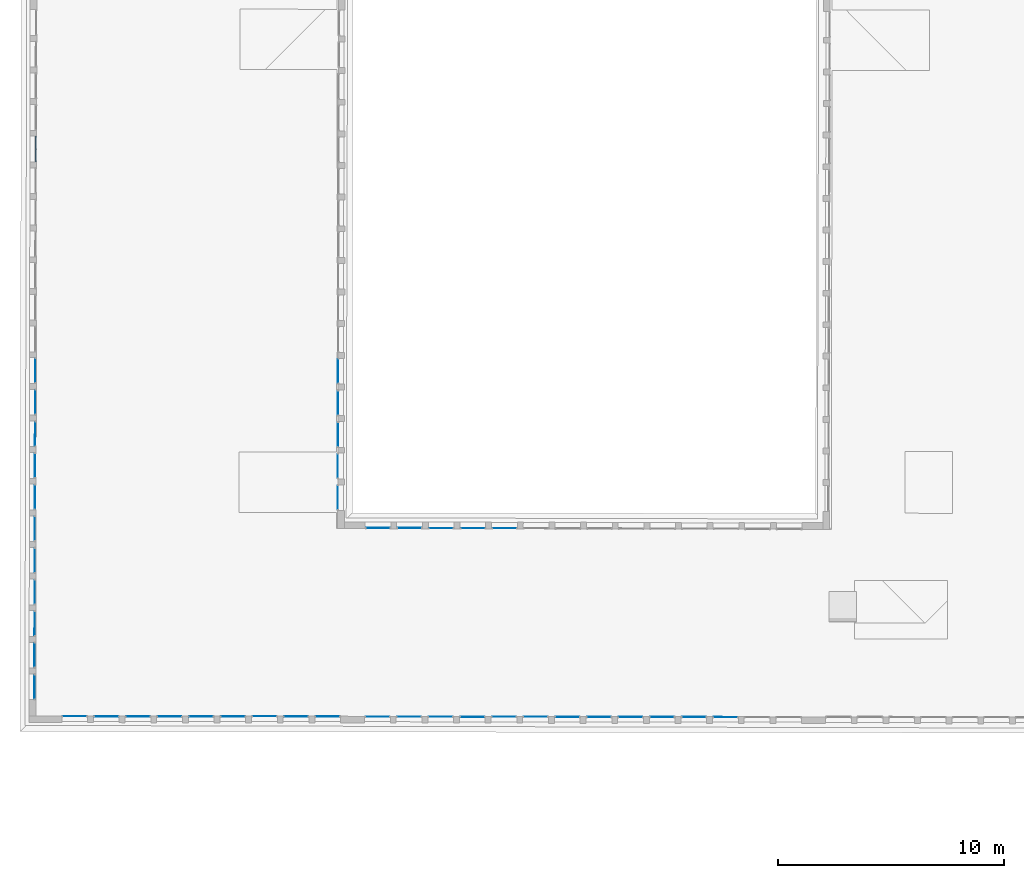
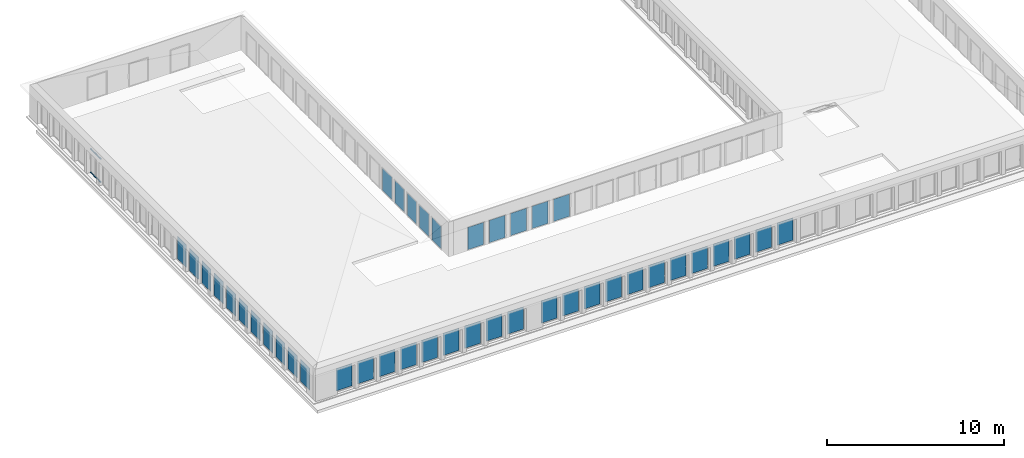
# One storey, part 16 of 26: 42 plates, 4 members, 43 elements without a shape of their own.
"""IFC2X3 building model written with IfcOpenShell, lengths in metres."""

from ifc_helpers import new_model, entity, si_unit, converted_unit, derived_unit, direction, frame, frame_2d, origin, origin_2d_with_axis, place, context, subcontext, project, spatial, rectangle, extrude, source, transform, mapped, material, layer, layer_set, type_object, type_shapes, element, aggregate, save


model = new_model("IFC2X3")

# Units and contexts
model_context = context("Model", 3, precision=1e-05, world=origin(), true_north=direction((6.123233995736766e-17, 1.0)))
body_context = subcontext(model_context, "Body", "Model", "MODEL_VIEW")
ifc_project = project(units=[si_unit("LENGTHUNIT", "METRE"), si_unit("AREAUNIT", "SQUARE_METRE"), converted_unit("PLANEANGLEUNIT", "DEGREE", entity("IfcPlaneAngleMeasure", 0.017453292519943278), si_unit("PLANEANGLEUNIT", "RADIAN"), dimensions=[0, 0, 0, 0, 0, 0, 0]), derived_unit("THERMALTRANSMITTANCEUNIT", [(si_unit("MASSUNIT", "GRAM", prefix="KILO"), 1), (si_unit("THERMODYNAMICTEMPERATUREUNIT", "KELVIN"), -1), (si_unit("TIMEUNIT", "SECOND"), -3)])], contexts=[model_context])

# Site, building, storey
site_placement = place(None, frame((1253.6752467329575, 2072.143113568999, 91.49999999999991), z_axis=(0.0, 0.0, 1.0), x_axis=(0.7237211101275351, 0.6900925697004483, 0.0)))
site = spatial("IfcSite", under=ifc_project, at=site_placement, Name="Surface", CompositionType="ELEMENT")
building_placement = place(site_placement, origin())
building = spatial("IfcBuilding", under=site, at=building_placement, CompositionType="ELEMENT")
storey_placement = place(building_placement, frame((0.0, 0.0, 7.0)))
storey = spatial("IfcBuildingStorey", under=building, at=storey_placement, Name="2-R+2", CompositionType="ELEMENT", Elevation=6.999999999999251)

# Curtain wall, members
curtain_wall_type = type_object("IfcCurtainWallType", Name="Mur-rideau:Menuiserie Ext 1F+1OB VERTIC", PredefinedType="NOTDEFINED")
curtain_wall_1_placement = place(storey_placement, frame((0.0, 0.0, -7.0)))
curtain_wall_1 = element("IfcCurtainWall", 1, at=curtain_wall_1_placement, inside=storey, type_object=curtain_wall_type, Name="Mur-rideau:Menuiserie Ext 1F+1OB VERTIC", ObjectType="Mur-rideau:Menuiserie Ext 1F+1OB VERTIC")
ifc_material_1 = material(Name="OMD_Aluminium Men Ext")
member_type_1 = type_object("IfcMemberType", Name="Meneau rectangulaire:50x50", PredefinedType="MULLION", material=ifc_material_1)
shared_shape_1 = source(origin(), body_context, "Body", "SweptSolid", [
    extrude(rectangle(XDim=0.05, YDim=0.05, at=origin_2d_with_axis()), frame((-0.025, 0.0, -0.5699999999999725), z_axis=(0.0, 0.0, 1.0), x_axis=(-1.0, 0.0, 0.0)), (0.0, 0.0, 1.0), 0.5699999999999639),
])
type_shapes(member_type_1, [shared_shape_1])
member_1_placement = place(curtain_wall_1_placement, frame((161.93739714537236, 22.84134611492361, 9.55), z_axis=(0.6911544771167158, 0.7227070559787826, 0.0), x_axis=(0.0, 0.0, 1.0)))
member_1 = element("IfcMember", 2, at=member_1_placement, type_object=member_type_1, material=ifc_material_1, Name="Meneau rectangulaire:50x50", ObjectType="Meneau rectangulaire:50x50", context=body_context, shape_type="MappedRepresentation", body=[
    mapped(shared_shape_1, transform((0.0, 0.0, 0.0), scale=1.0)),
])
member_type_2 = type_object("IfcMemberType", Name="Meneau rectangulaire:50x50", PredefinedType="MULLION", material=ifc_material_1)
shared_shape_2 = source(origin(), body_context, "Body", "SweptSolid", [
    extrude(rectangle(XDim=0.05, YDim=0.05, at=origin_2d_with_axis()), frame((-0.025, 0.0, -0.5700000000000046), z_axis=(0.0, 0.0, 1.0), x_axis=(-1.0, 0.0, 0.0)), (0.0, 0.0, 1.0), 0.5700000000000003),
])
type_shapes(member_type_2, [shared_shape_2])
member_2_placement = place(curtain_wall_1_placement, frame((161.1494810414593, 22.01746007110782, 7.9), z_axis=(-0.6911544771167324, -0.7227070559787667, 0.0), x_axis=(0.0, 0.0, -1.0)))
member_2 = element("IfcMember", 3, at=member_2_placement, type_object=member_type_2, material=ifc_material_1, Name="Meneau rectangulaire:50x50", ObjectType="Meneau rectangulaire:50x50", context=body_context, shape_type="MappedRepresentation", body=[
    mapped(shared_shape_2, transform((0.0, 0.0, 0.0), scale=1.0)),
])
member_type_3 = type_object("IfcMemberType", Name="Meneau rectangulaire:50x50", PredefinedType="MULLION", material=ifc_material_1)
shared_shape_3 = source(origin(), body_context, "Body", "SweptSolid", [
    extrude(rectangle(XDim=0.05, YDim=0.049999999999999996, at=origin_2d_with_axis()), frame((-0.025, 0.0, -0.5700000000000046), z_axis=(0.0, 0.0, 1.0), x_axis=(-1.0, 0.0, 0.0)), (0.0, 0.0, 1.0), 0.5700000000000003),
])
type_shapes(member_type_3, [shared_shape_3])
member_3_placement = place(curtain_wall_1_placement, frame((161.54343909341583, 22.429403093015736, 9.55), z_axis=(0.6911544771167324, 0.7227070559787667, 0.0), x_axis=(0.0, 0.0, 1.0)))
member_3 = element("IfcMember", 4, at=member_3_placement, type_object=member_type_3, material=ifc_material_1, Name="Meneau rectangulaire:50x50", ObjectType="Meneau rectangulaire:50x50", context=body_context, shape_type="MappedRepresentation", body=[
    mapped(shared_shape_3, transform((0.0, 0.0, 0.0), scale=1.0)),
])
member_type_4 = type_object("IfcMemberType", Name="Meneau rectangulaire:50x50", PredefinedType="MULLION", material=ifc_material_1)
shared_shape_4 = source(origin(), body_context, "Body", "SweptSolid", [
    extrude(rectangle(XDim=0.05, YDim=0.05000000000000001, at=origin_2d_with_axis()), frame((-0.025, 0.0, -0.5699999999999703), z_axis=(0.0, 0.0, 1.0), x_axis=(-1.0, 0.0, 0.0)), (0.0, 0.0, 1.0), 0.5699999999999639),
])
type_shapes(member_type_4, [shared_shape_4])
member_4_placement = place(curtain_wall_1_placement, frame((161.54343909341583, 22.429403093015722, 7.9), z_axis=(-0.6911544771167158, -0.7227070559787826, 0.0), x_axis=(0.0, 0.0, -1.0)))
member_4 = element("IfcMember", 5, at=member_4_placement, type_object=member_type_4, material=ifc_material_1, Name="Meneau rectangulaire:50x50", ObjectType="Meneau rectangulaire:50x50", context=body_context, shape_type="MappedRepresentation", body=[
    mapped(shared_shape_4, transform((0.0, 0.0, 0.0), scale=1.0)),
])
aggregate(curtain_wall_1, [member_1, member_2, member_3, member_4])

# Curtain wall, plate
curtain_wall_2_placement = place(storey_placement, frame((0.0, 0.0, -7.0)))
curtain_wall_2 = element("IfcCurtainWall", 6, at=curtain_wall_2_placement, inside=storey, type_object=curtain_wall_type, Name="Mur-rideau:Menuiserie Ext 1F+1OB VERTIC", ObjectType="Mur-rideau:Menuiserie Ext 1F+1OB VERTIC")
ifc_material_2 = material(Name="Verre")
ifc_layer = layer(ifc_material_2, 0.01)
ifc_layer_set = layer_set([ifc_layer], Name="Panneau système:Vitré")
plate_type = type_object("IfcPlateType", Name="Panneau système:Vitré", PredefinedType="CURTAIN_PANEL", material=ifc_layer_set)
shared_shape_5 = source(origin(), body_context, "Body", "SweptSolid", [
    extrude(rectangle(XDim=0.01, YDim=1.0399999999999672, at=frame_2d((0.0, -8.881784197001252e-16), x_axis=(1.0, 0.0))), frame((0.0, 0.0, 0.0), z_axis=(0.0, 0.0, 1.0), x_axis=(0.0, 1.0, 0.0)), (0.0, 0.0, 1.0), 1.5499999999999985),
])
type_shapes(plate_type, [shared_shape_5])
plate_1_placement = place(curtain_wall_2_placement, frame((154.76208069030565, 15.354576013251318, 7.950000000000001), z_axis=(0.0, 0.0, 1.0), x_axis=(0.6911544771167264, 0.7227070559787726, 0.0)))
plate_1 = element("IfcPlate", 7, at=plate_1_placement, type_object=plate_type, material=ifc_material_2, Name="Panneau système:Vitré", ObjectType="Panneau système:Vitré", context=body_context, shape_type="MappedRepresentation", body=[
    mapped(shared_shape_5, transform((0.0, 0.0, 0.0), scale=1.0)),
])
aggregate(curtain_wall_2, [plate_1])

curtain_wall_3_placement = place(storey_placement, frame((0.0, 0.0, -7.0)))
curtain_wall_3 = element("IfcCurtainWall", 8, at=curtain_wall_3_placement, inside=storey, type_object=curtain_wall_type, Name="Mur-rideau:Menuiserie Ext 1F+1OB VERTIC", ObjectType="Mur-rideau:Menuiserie Ext 1F+1OB VERTIC")
plate_2_placement = place(curtain_wall_3_placement, frame((153.79331520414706, 14.343886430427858, 7.950000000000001), z_axis=(0.0, 0.0, 1.0), x_axis=(0.6911544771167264, 0.7227070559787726, 0.0)))
plate_2 = element("IfcPlate", 9, at=plate_2_placement, type_object=plate_type, material=ifc_material_2, Name="Panneau système:Vitré", ObjectType="Panneau système:Vitré", context=body_context, shape_type="MappedRepresentation", body=[
    mapped(shared_shape_5, transform((0.0, 0.0, 0.0), scale=1.0)),
])
aggregate(curtain_wall_3, [plate_2])

curtain_wall_4_placement = place(storey_placement, frame((0.0, 0.0, -7.0)))
curtain_wall_4 = element("IfcCurtainWall", 10, at=curtain_wall_4_placement, inside=storey, type_object=curtain_wall_type, Name="Mur-rideau:Menuiserie Ext 1F+1OB VERTIC", ObjectType="Mur-rideau:Menuiserie Ext 1F+1OB VERTIC")
plate_3_placement = place(curtain_wall_4_placement, frame((152.82454971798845, 13.33319684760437, 7.950000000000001), z_axis=(0.0, 0.0, 1.0), x_axis=(0.6911544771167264, 0.7227070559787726, 0.0)))
plate_3 = element("IfcPlate", 11, at=plate_3_placement, type_object=plate_type, material=ifc_material_2, Name="Panneau système:Vitré", ObjectType="Panneau système:Vitré", context=body_context, shape_type="MappedRepresentation", body=[
    mapped(shared_shape_5, transform((0.0, 0.0, 0.0), scale=1.0)),
])
aggregate(curtain_wall_4, [plate_3])

curtain_wall_5_placement = place(storey_placement, frame((0.0, 0.0, -7.0)))
curtain_wall_5 = element("IfcCurtainWall", 12, at=curtain_wall_5_placement, inside=storey, type_object=curtain_wall_type, Name="Mur-rideau:Menuiserie Ext 1F+1OB VERTIC", ObjectType="Mur-rideau:Menuiserie Ext 1F+1OB VERTIC")
plate_4_placement = place(curtain_wall_5_placement, frame((151.8557842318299, 12.322507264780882, 7.950000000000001), z_axis=(0.0, 0.0, 1.0), x_axis=(0.6911544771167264, 0.7227070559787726, 0.0)))
plate_4 = element("IfcPlate", 13, at=plate_4_placement, type_object=plate_type, material=ifc_material_2, Name="Panneau système:Vitré", ObjectType="Panneau système:Vitré", context=body_context, shape_type="MappedRepresentation", body=[
    mapped(shared_shape_5, transform((0.0, 0.0, 0.0), scale=1.0)),
])
aggregate(curtain_wall_5, [plate_4])

curtain_wall_6_placement = place(storey_placement, frame((0.0, 0.0, -7.0)))
curtain_wall_6 = element("IfcCurtainWall", 14, at=curtain_wall_6_placement, inside=storey, type_object=curtain_wall_type, Name="Mur-rideau:Menuiserie Ext 1F+1OB VERTIC", ObjectType="Mur-rideau:Menuiserie Ext 1F+1OB VERTIC")
plate_5_placement = place(curtain_wall_6_placement, frame((150.8870187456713, 11.311817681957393, 7.950000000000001), z_axis=(0.0, 0.0, 1.0), x_axis=(0.6911544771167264, 0.7227070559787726, 0.0)))
plate_5 = element("IfcPlate", 15, at=plate_5_placement, type_object=plate_type, material=ifc_material_2, Name="Panneau système:Vitré", ObjectType="Panneau système:Vitré", context=body_context, shape_type="MappedRepresentation", body=[
    mapped(shared_shape_5, transform((0.0, 0.0, 0.0), scale=1.0)),
])
aggregate(curtain_wall_6, [plate_5])

curtain_wall_7_placement = place(storey_placement, frame((0.0, 0.0, -7.0)))
curtain_wall_7 = element("IfcCurtainWall", 16, at=curtain_wall_7_placement, inside=storey, type_object=curtain_wall_type, Name="Mur-rideau:Menuiserie Ext 1F+1OB VERTIC", ObjectType="Mur-rideau:Menuiserie Ext 1F+1OB VERTIC")
plate_6_placement = place(curtain_wall_7_placement, frame((149.9182532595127, 10.30112809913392, 7.950000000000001), z_axis=(0.0, 0.0, 1.0), x_axis=(0.6911544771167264, 0.7227070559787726, 0.0)))
plate_6 = element("IfcPlate", 17, at=plate_6_placement, type_object=plate_type, material=ifc_material_2, Name="Panneau système:Vitré", ObjectType="Panneau système:Vitré", context=body_context, shape_type="MappedRepresentation", body=[
    mapped(shared_shape_5, transform((0.0, 0.0, 0.0), scale=1.0)),
])
aggregate(curtain_wall_7, [plate_6])

curtain_wall_8_placement = place(storey_placement, frame((0.0, 0.0, -7.0)))
curtain_wall_8 = element("IfcCurtainWall", 18, at=curtain_wall_8_placement, inside=storey, type_object=curtain_wall_type, Name="Mur-rideau:Menuiserie Ext 1F+1OB VERTIC", ObjectType="Mur-rideau:Menuiserie Ext 1F+1OB VERTIC")
plate_7_placement = place(curtain_wall_8_placement, frame((148.94948777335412, 9.290438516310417, 7.950000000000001), z_axis=(0.0, 0.0, 1.0), x_axis=(0.6911544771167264, 0.7227070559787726, 0.0)))
plate_7 = element("IfcPlate", 19, at=plate_7_placement, type_object=plate_type, material=ifc_material_2, Name="Panneau système:Vitré", ObjectType="Panneau système:Vitré", context=body_context, shape_type="MappedRepresentation", body=[
    mapped(shared_shape_5, transform((0.0, 0.0, 0.0), scale=1.0)),
])
aggregate(curtain_wall_8, [plate_7])

curtain_wall_9_placement = place(storey_placement, frame((0.0, 0.0, -7.0)))
curtain_wall_9 = element("IfcCurtainWall", 20, at=curtain_wall_9_placement, inside=storey, type_object=curtain_wall_type, Name="Mur-rideau:Menuiserie Ext 1F+1OB VERTIC", ObjectType="Mur-rideau:Menuiserie Ext 1F+1OB VERTIC")
plate_8_placement = place(curtain_wall_9_placement, frame((147.9807222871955, 8.279748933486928, 7.950000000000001), z_axis=(0.0, 0.0, 1.0), x_axis=(0.6911544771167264, 0.7227070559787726, 0.0)))
plate_8 = element("IfcPlate", 21, at=plate_8_placement, type_object=plate_type, material=ifc_material_2, Name="Panneau système:Vitré", ObjectType="Panneau système:Vitré", context=body_context, shape_type="MappedRepresentation", body=[
    mapped(shared_shape_5, transform((0.0, 0.0, 0.0), scale=1.0)),
])
aggregate(curtain_wall_9, [plate_8])

curtain_wall_10_placement = place(storey_placement, frame((0.0, 0.0, -7.0)))
curtain_wall_10 = element("IfcCurtainWall", 22, at=curtain_wall_10_placement, inside=storey, type_object=curtain_wall_type, Name="Mur-rideau:Menuiserie Ext 1F+1OB VERTIC", ObjectType="Mur-rideau:Menuiserie Ext 1F+1OB VERTIC")
plate_9_placement = place(curtain_wall_10_placement, frame((147.01195680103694, 7.26905935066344, 7.950000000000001), z_axis=(0.0, 0.0, 1.0), x_axis=(0.6911544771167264, 0.7227070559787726, 0.0)))
plate_9 = element("IfcPlate", 23, at=plate_9_placement, type_object=plate_type, material=ifc_material_2, Name="Panneau système:Vitré", ObjectType="Panneau système:Vitré", context=body_context, shape_type="MappedRepresentation", body=[
    mapped(shared_shape_5, transform((0.0, 0.0, 0.0), scale=1.0)),
])
aggregate(curtain_wall_10, [plate_9])

curtain_wall_11_placement = place(storey_placement, frame((0.0, 0.0, -7.0)))
curtain_wall_11 = element("IfcCurtainWall", 24, at=curtain_wall_11_placement, inside=storey, type_object=curtain_wall_type, Name="Mur-rideau:Menuiserie Ext 1F+1OB VERTIC", ObjectType="Mur-rideau:Menuiserie Ext 1F+1OB VERTIC")
plate_10_placement = place(curtain_wall_11_placement, frame((146.04319131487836, 6.258369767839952, 7.950000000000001), z_axis=(0.0, 0.0, 1.0), x_axis=(0.6911544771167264, 0.7227070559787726, 0.0)))
plate_10 = element("IfcPlate", 25, at=plate_10_placement, type_object=plate_type, material=ifc_material_2, Name="Panneau système:Vitré", ObjectType="Panneau système:Vitré", context=body_context, shape_type="MappedRepresentation", body=[
    mapped(shared_shape_5, transform((0.0, 0.0, 0.0), scale=1.0)),
])
aggregate(curtain_wall_11, [plate_10])

curtain_wall_12_placement = place(storey_placement, frame((0.0, 0.0, -7.0)))
curtain_wall_12 = element("IfcCurtainWall", 26, at=curtain_wall_12_placement, inside=storey, type_object=curtain_wall_type, Name="Mur-rideau:Menuiserie Ext 1F+1OB VERTIC", ObjectType="Mur-rideau:Menuiserie Ext 1F+1OB VERTIC")
plate_11_placement = place(curtain_wall_12_placement, frame((145.07442582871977, 5.247680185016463, 7.950000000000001), z_axis=(0.0, 0.0, 1.0), x_axis=(0.6911544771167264, 0.7227070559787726, 0.0)))
plate_11 = element("IfcPlate", 27, at=plate_11_placement, type_object=plate_type, material=ifc_material_2, Name="Panneau système:Vitré", ObjectType="Panneau système:Vitré", context=body_context, shape_type="MappedRepresentation", body=[
    mapped(shared_shape_5, transform((0.0, 0.0, 0.0), scale=1.0)),
])
aggregate(curtain_wall_12, [plate_11])

curtain_wall_13_placement = place(storey_placement, frame((0.0, 0.0, -7.0)))
curtain_wall_13 = element("IfcCurtainWall", 28, at=curtain_wall_13_placement, inside=storey, type_object=curtain_wall_type, Name="Mur-rideau:Menuiserie Ext 1F+1OB VERTIC", ObjectType="Mur-rideau:Menuiserie Ext 1F+1OB VERTIC")
plate_12_placement = place(curtain_wall_13_placement, frame((164.44214667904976, 6.086763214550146, 7.950000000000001), z_axis=(0.0, 0.0, 1.0), x_axis=(0.6909838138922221, 0.7228702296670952, 0.0)))
plate_12 = element("IfcPlate", 29, at=plate_12_placement, type_object=plate_type, material=ifc_material_2, Name="Panneau système:Vitré", ObjectType="Panneau système:Vitré", context=body_context, shape_type="MappedRepresentation", body=[
    mapped(shared_shape_5, transform((0.0, 0.0, 0.0), scale=1.0)),
])
aggregate(curtain_wall_13, [plate_12])

curtain_wall_14_placement = place(storey_placement, frame((0.0, 0.0, -7.0)))
curtain_wall_14 = element("IfcCurtainWall", 30, at=curtain_wall_14_placement, inside=storey, type_object=curtain_wall_type, Name="Mur-rideau:Menuiserie Ext 1F+1OB VERTIC", ObjectType="Mur-rideau:Menuiserie Ext 1F+1OB VERTIC")
plate_13_placement = place(curtain_wall_14_placement, frame((163.47338119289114, 5.0760736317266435, 7.950000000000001), z_axis=(0.0, 0.0, 1.0), x_axis=(0.6909838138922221, 0.7228702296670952, 0.0)))
plate_13 = element("IfcPlate", 31, at=plate_13_placement, type_object=plate_type, material=ifc_material_2, Name="Panneau système:Vitré", ObjectType="Panneau système:Vitré", context=body_context, shape_type="MappedRepresentation", body=[
    mapped(shared_shape_5, transform((0.0, 0.0, 0.0), scale=1.0)),
])
aggregate(curtain_wall_14, [plate_13])

curtain_wall_15_placement = place(storey_placement, frame((0.0, 0.0, -7.0)))
curtain_wall_15 = element("IfcCurtainWall", 32, at=curtain_wall_15_placement, inside=storey, type_object=curtain_wall_type, Name="Mur-rideau:Menuiserie Ext 1F+1OB VERTIC", ObjectType="Mur-rideau:Menuiserie Ext 1F+1OB VERTIC")
plate_14_placement = place(curtain_wall_15_placement, frame((162.50461570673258, 4.065384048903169, 7.950000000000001), z_axis=(0.0, 0.0, 1.0), x_axis=(0.6909838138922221, 0.7228702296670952, 0.0)))
plate_14 = element("IfcPlate", 33, at=plate_14_placement, type_object=plate_type, material=ifc_material_2, Name="Panneau système:Vitré", ObjectType="Panneau système:Vitré", context=body_context, shape_type="MappedRepresentation", body=[
    mapped(shared_shape_5, transform((0.0, 0.0, 0.0), scale=1.0)),
])
aggregate(curtain_wall_15, [plate_14])

curtain_wall_16_placement = place(storey_placement, frame((0.0, 0.0, -7.0)))
curtain_wall_16 = element("IfcCurtainWall", 34, at=curtain_wall_16_placement, inside=storey, type_object=curtain_wall_type, Name="Mur-rideau:Menuiserie Ext 1F+1OB VERTIC", ObjectType="Mur-rideau:Menuiserie Ext 1F+1OB VERTIC")
plate_15_placement = place(curtain_wall_16_placement, frame((161.5358502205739, 3.054694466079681, 7.950000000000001), z_axis=(0.0, 0.0, 1.0), x_axis=(0.6909838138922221, 0.7228702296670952, 0.0)))
plate_15 = element("IfcPlate", 35, at=plate_15_placement, type_object=plate_type, material=ifc_material_2, Name="Panneau système:Vitré", ObjectType="Panneau système:Vitré", context=body_context, shape_type="MappedRepresentation", body=[
    mapped(shared_shape_5, transform((0.0, 0.0, 0.0), scale=1.0)),
])
aggregate(curtain_wall_16, [plate_15])

curtain_wall_17_placement = place(storey_placement, frame((0.0, 0.0, -7.0)))
curtain_wall_17 = element("IfcCurtainWall", 36, at=curtain_wall_17_placement, inside=storey, type_object=curtain_wall_type, Name="Mur-rideau:Menuiserie Ext 1F+1OB VERTIC", ObjectType="Mur-rideau:Menuiserie Ext 1F+1OB VERTIC")
plate_16_placement = place(curtain_wall_17_placement, frame((160.56708473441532, 2.044004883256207, 7.950000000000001), z_axis=(0.0, 0.0, 1.0), x_axis=(0.6909838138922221, 0.7228702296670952, 0.0)))
plate_16 = element("IfcPlate", 37, at=plate_16_placement, type_object=plate_type, material=ifc_material_2, Name="Panneau système:Vitré", ObjectType="Panneau système:Vitré", context=body_context, shape_type="MappedRepresentation", body=[
    mapped(shared_shape_5, transform((0.0, 0.0, 0.0), scale=1.0)),
])
aggregate(curtain_wall_17, [plate_16])

curtain_wall_18_placement = place(storey_placement, frame((0.0, 0.0, -7.0)))
curtain_wall_18 = element("IfcCurtainWall", 38, at=curtain_wall_18_placement, inside=storey, type_object=curtain_wall_type, Name="Mur-rideau:Menuiserie Ext 1F+1OB VERTIC", ObjectType="Mur-rideau:Menuiserie Ext 1F+1OB VERTIC")
plate_17_placement = place(curtain_wall_18_placement, frame((160.92934059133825, -0.15340823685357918, 7.950000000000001), z_axis=(0.0, 0.0, 1.0), x_axis=(0.7228702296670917, -0.6909838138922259, 0.0)))
plate_17 = element("IfcPlate", 39, at=plate_17_placement, type_object=plate_type, material=ifc_material_2, Name="Panneau système:Vitré", ObjectType="Panneau système:Vitré", context=body_context, shape_type="MappedRepresentation", body=[
    mapped(shared_shape_5, transform((0.0, 0.0, 0.0), scale=1.0)),
])
aggregate(curtain_wall_18, [plate_17])

curtain_wall_19_placement = place(storey_placement, frame((0.0, 0.0, -7.0)))
curtain_wall_19 = element("IfcCurtainWall", 40, at=curtain_wall_19_placement, inside=storey, type_object=curtain_wall_type, Name="Mur-rideau:Menuiserie Ext 1F+1OB VERTIC", ObjectType="Mur-rideau:Menuiserie Ext 1F+1OB VERTIC")
plate_18_placement = place(curtain_wall_19_placement, frame((161.94003017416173, -1.122173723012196, 7.950000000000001), z_axis=(0.0, 0.0, 1.0), x_axis=(0.7228702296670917, -0.6909838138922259, 0.0)))
plate_18 = element("IfcPlate", 41, at=plate_18_placement, type_object=plate_type, material=ifc_material_2, Name="Panneau système:Vitré", ObjectType="Panneau système:Vitré", context=body_context, shape_type="MappedRepresentation", body=[
    mapped(shared_shape_5, transform((0.0, 0.0, 0.0), scale=1.0)),
])
aggregate(curtain_wall_19, [plate_18])

curtain_wall_20_placement = place(storey_placement, frame((0.0, 0.0, -7.0)))
curtain_wall_20 = element("IfcCurtainWall", 42, at=curtain_wall_20_placement, inside=storey, type_object=curtain_wall_type, Name="Mur-rideau:Menuiserie Ext 1F+1OB VERTIC", ObjectType="Mur-rideau:Menuiserie Ext 1F+1OB VERTIC")
plate_19_placement = place(curtain_wall_20_placement, frame((162.95071975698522, -2.09093920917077, 7.950000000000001), z_axis=(0.0, 0.0, 1.0), x_axis=(0.7228702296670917, -0.6909838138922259, 0.0)))
plate_19 = element("IfcPlate", 43, at=plate_19_placement, type_object=plate_type, material=ifc_material_2, Name="Panneau système:Vitré", ObjectType="Panneau système:Vitré", context=body_context, shape_type="MappedRepresentation", body=[
    mapped(shared_shape_5, transform((0.0, 0.0, 0.0), scale=1.0)),
])
aggregate(curtain_wall_20, [plate_19])

curtain_wall_21_placement = place(storey_placement, frame((0.0, 0.0, -7.0)))
curtain_wall_21 = element("IfcCurtainWall", 44, at=curtain_wall_21_placement, inside=storey, type_object=curtain_wall_type, Name="Mur-rideau:Menuiserie Ext 1F+1OB VERTIC", ObjectType="Mur-rideau:Menuiserie Ext 1F+1OB VERTIC")
plate_20_placement = place(curtain_wall_21_placement, frame((163.9614093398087, -3.0597046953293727, 7.950000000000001), z_axis=(0.0, 0.0, 1.0), x_axis=(0.7228702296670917, -0.6909838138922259, 0.0)))
plate_20 = element("IfcPlate", 45, at=plate_20_placement, type_object=plate_type, material=ifc_material_2, Name="Panneau système:Vitré", ObjectType="Panneau système:Vitré", context=body_context, shape_type="MappedRepresentation", body=[
    mapped(shared_shape_5, transform((0.0, 0.0, 0.0), scale=1.0)),
])
aggregate(curtain_wall_21, [plate_20])

curtain_wall_22_placement = place(storey_placement, frame((0.0, 0.0, -7.0)))
curtain_wall_22 = element("IfcCurtainWall", 46, at=curtain_wall_22_placement, inside=storey, type_object=curtain_wall_type, Name="Mur-rideau:Menuiserie Ext 1F+1OB VERTIC", ObjectType="Mur-rideau:Menuiserie Ext 1F+1OB VERTIC")
plate_21_placement = place(curtain_wall_22_placement, frame((164.9720989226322, -4.028470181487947, 7.950000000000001), z_axis=(0.0, 0.0, 1.0), x_axis=(0.7228702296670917, -0.6909838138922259, 0.0)))
plate_21 = element("IfcPlate", 47, at=plate_21_placement, type_object=plate_type, material=ifc_material_2, Name="Panneau système:Vitré", ObjectType="Panneau système:Vitré", context=body_context, shape_type="MappedRepresentation", body=[
    mapped(shared_shape_5, transform((0.0, 0.0, 0.0), scale=1.0)),
])
aggregate(curtain_wall_22, [plate_21])

curtain_wall_23_placement = place(storey_placement, frame((0.0, 0.0, -7.0)))
curtain_wall_23 = element("IfcCurtainWall", 48, at=curtain_wall_23_placement, inside=storey, type_object=curtain_wall_type, Name="Mur-rideau:Menuiserie Ext 1F+1OB VERTIC", ObjectType="Mur-rideau:Menuiserie Ext 1F+1OB VERTIC")
plate_22_placement = place(curtain_wall_23_placement, frame((166.28181275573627, -16.823828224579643, 7.950000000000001), z_axis=(0.0, 0.0, 1.0), x_axis=(-0.7228702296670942, 0.6909838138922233, 0.0)))
plate_22 = element("IfcPlate", 49, at=plate_22_placement, type_object=plate_type, material=ifc_material_2, Name="Panneau système:Vitré", ObjectType="Panneau système:Vitré", context=body_context, shape_type="MappedRepresentation", body=[
    mapped(shared_shape_5, transform((0.0, 0.0, 0.0), scale=1.0)),
])
aggregate(curtain_wall_23, [plate_22])

curtain_wall_24_placement = place(storey_placement, frame((0.0, 0.0, -7.0)))
curtain_wall_24 = element("IfcCurtainWall", 50, at=curtain_wall_24_placement, inside=storey, type_object=curtain_wall_type, Name="Mur-rideau:Menuiserie Ext 1F+1OB VERTIC", ObjectType="Mur-rideau:Menuiserie Ext 1F+1OB VERTIC")
plate_23_placement = place(curtain_wall_24_placement, frame((165.27112317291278, -15.855062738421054, 7.950000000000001), z_axis=(0.0, 0.0, 1.0), x_axis=(-0.7228702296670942, 0.6909838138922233, 0.0)))
plate_23 = element("IfcPlate", 51, at=plate_23_placement, type_object=plate_type, material=ifc_material_2, Name="Panneau système:Vitré", ObjectType="Panneau système:Vitré", context=body_context, shape_type="MappedRepresentation", body=[
    mapped(shared_shape_5, transform((0.0, 0.0, 0.0), scale=1.0)),
])
aggregate(curtain_wall_24, [plate_23])

curtain_wall_25_placement = place(storey_placement, frame((0.0, 0.0, -7.0)))
curtain_wall_25 = element("IfcCurtainWall", 52, at=curtain_wall_25_placement, inside=storey, type_object=curtain_wall_type, Name="Mur-rideau:Menuiserie Ext 1F+1OB VERTIC", ObjectType="Mur-rideau:Menuiserie Ext 1F+1OB VERTIC")
plate_24_placement = place(curtain_wall_25_placement, frame((164.26043359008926, -14.886297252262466, 7.950000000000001), z_axis=(0.0, 0.0, 1.0), x_axis=(-0.7228702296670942, 0.6909838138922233, 0.0)))
plate_24 = element("IfcPlate", 53, at=plate_24_placement, type_object=plate_type, material=ifc_material_2, Name="Panneau système:Vitré", ObjectType="Panneau système:Vitré", context=body_context, shape_type="MappedRepresentation", body=[
    mapped(shared_shape_5, transform((0.0, 0.0, 0.0), scale=1.0)),
])
aggregate(curtain_wall_25, [plate_24])

curtain_wall_26_placement = place(storey_placement, frame((0.0, 0.0, -7.0)))
curtain_wall_26 = element("IfcCurtainWall", 54, at=curtain_wall_26_placement, inside=storey, type_object=curtain_wall_type, Name="Mur-rideau:Menuiserie Ext 1F+1OB VERTIC", ObjectType="Mur-rideau:Menuiserie Ext 1F+1OB VERTIC")
plate_25_placement = place(curtain_wall_26_placement, frame((163.24282425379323, -13.924750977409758, 7.950000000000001), z_axis=(0.0, 0.0, 1.0), x_axis=(-0.7228702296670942, 0.6909838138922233, 0.0)))
plate_25 = element("IfcPlate", 55, at=plate_25_placement, type_object=plate_type, material=ifc_material_2, Name="Panneau système:Vitré", ObjectType="Panneau système:Vitré", context=body_context, shape_type="MappedRepresentation", body=[
    mapped(shared_shape_5, transform((0.0, 0.0, 0.0), scale=1.0)),
])
aggregate(curtain_wall_26, [plate_25])

curtain_wall_27_placement = place(storey_placement, frame((0.0, 0.0, -7.0)))
curtain_wall_27 = element("IfcCurtainWall", 56, at=curtain_wall_27_placement, inside=storey, type_object=curtain_wall_type, Name="Mur-rideau:Menuiserie Ext 1F+1OB VERTIC", ObjectType="Mur-rideau:Menuiserie Ext 1F+1OB VERTIC")
plate_26_placement = place(curtain_wall_27_placement, frame((162.23213467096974, -12.955985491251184, 7.950000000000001), z_axis=(0.0, 0.0, 1.0), x_axis=(-0.7228702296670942, 0.6909838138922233, 0.0)))
plate_26 = element("IfcPlate", 57, at=plate_26_placement, type_object=plate_type, material=ifc_material_2, Name="Panneau système:Vitré", ObjectType="Panneau système:Vitré", context=body_context, shape_type="MappedRepresentation", body=[
    mapped(shared_shape_5, transform((0.0, 0.0, 0.0), scale=1.0)),
])
aggregate(curtain_wall_27, [plate_26])

curtain_wall_28_placement = place(storey_placement, frame((0.0, 0.0, -7.0)))
curtain_wall_28 = element("IfcCurtainWall", 58, at=curtain_wall_28_placement, inside=storey, type_object=curtain_wall_type, Name="Mur-rideau:Menuiserie Ext 1F+1OB VERTIC", ObjectType="Mur-rideau:Menuiserie Ext 1F+1OB VERTIC")
plate_27_placement = place(curtain_wall_28_placement, frame((161.22144508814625, -11.987220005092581, 7.950000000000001), z_axis=(0.0, 0.0, 1.0), x_axis=(-0.7228702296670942, 0.6909838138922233, 0.0)))
plate_27 = element("IfcPlate", 59, at=plate_27_placement, type_object=plate_type, material=ifc_material_2, Name="Panneau système:Vitré", ObjectType="Panneau système:Vitré", context=body_context, shape_type="MappedRepresentation", body=[
    mapped(shared_shape_5, transform((0.0, 0.0, 0.0), scale=1.0)),
])
aggregate(curtain_wall_28, [plate_27])

curtain_wall_29_placement = place(storey_placement, frame((0.0, 0.0, -7.0)))
curtain_wall_29 = element("IfcCurtainWall", 60, at=curtain_wall_29_placement, inside=storey, type_object=curtain_wall_type, Name="Mur-rideau:Menuiserie Ext 1F+1OB VERTIC", ObjectType="Mur-rideau:Menuiserie Ext 1F+1OB VERTIC")
plate_28_placement = place(curtain_wall_29_placement, frame((160.21075550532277, -11.018454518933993, 7.950000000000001), z_axis=(0.0, 0.0, 1.0), x_axis=(-0.7228702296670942, 0.6909838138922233, 0.0)))
plate_28 = element("IfcPlate", 61, at=plate_28_placement, type_object=plate_type, material=ifc_material_2, Name="Panneau système:Vitré", ObjectType="Panneau système:Vitré", context=body_context, shape_type="MappedRepresentation", body=[
    mapped(shared_shape_5, transform((0.0, 0.0, 0.0), scale=1.0)),
])
aggregate(curtain_wall_29, [plate_28])

curtain_wall_30_placement = place(storey_placement, frame((0.0, 0.0, -7.0)))
curtain_wall_30 = element("IfcCurtainWall", 62, at=curtain_wall_30_placement, inside=storey, type_object=curtain_wall_type, Name="Mur-rideau:Menuiserie Ext 1F+1OB VERTIC", ObjectType="Mur-rideau:Menuiserie Ext 1F+1OB VERTIC")
plate_29_placement = place(curtain_wall_30_placement, frame((159.20006592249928, -10.04968903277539, 7.950000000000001), z_axis=(0.0, 0.0, 1.0), x_axis=(-0.7228702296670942, 0.6909838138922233, 0.0)))
plate_29 = element("IfcPlate", 63, at=plate_29_placement, type_object=plate_type, material=ifc_material_2, Name="Panneau système:Vitré", ObjectType="Panneau système:Vitré", context=body_context, shape_type="MappedRepresentation", body=[
    mapped(shared_shape_5, transform((0.0, 0.0, 0.0), scale=1.0)),
])
aggregate(curtain_wall_30, [plate_29])

curtain_wall_31_placement = place(storey_placement, frame((0.0, 0.0, -7.0)))
curtain_wall_31 = element("IfcCurtainWall", 64, at=curtain_wall_31_placement, inside=storey, type_object=curtain_wall_type, Name="Mur-rideau:Menuiserie Ext 1F+1OB VERTIC", ObjectType="Mur-rideau:Menuiserie Ext 1F+1OB VERTIC")
plate_30_placement = place(curtain_wall_31_placement, frame((158.18245658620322, -9.088142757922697, 7.950000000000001), z_axis=(0.0, 0.0, 1.0), x_axis=(-0.7228702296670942, 0.6909838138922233, 0.0)))
plate_30 = element("IfcPlate", 65, at=plate_30_placement, type_object=plate_type, material=ifc_material_2, Name="Panneau système:Vitré", ObjectType="Panneau système:Vitré", context=body_context, shape_type="MappedRepresentation", body=[
    mapped(shared_shape_5, transform((0.0, 0.0, 0.0), scale=1.0)),
])
aggregate(curtain_wall_31, [plate_30])

curtain_wall_32_placement = place(storey_placement, frame((0.0, 0.0, -7.0)))
curtain_wall_32 = element("IfcCurtainWall", 66, at=curtain_wall_32_placement, inside=storey, type_object=curtain_wall_type, Name="Mur-rideau:Menuiserie Ext 1F+1OB VERTIC", ObjectType="Mur-rideau:Menuiserie Ext 1F+1OB VERTIC")
plate_31_placement = place(curtain_wall_32_placement, frame((157.17176700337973, -8.119377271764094, 7.950000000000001), z_axis=(0.0, 0.0, 1.0), x_axis=(-0.7228702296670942, 0.6909838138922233, 0.0)))
plate_31 = element("IfcPlate", 67, at=plate_31_placement, type_object=plate_type, material=ifc_material_2, Name="Panneau système:Vitré", ObjectType="Panneau système:Vitré", context=body_context, shape_type="MappedRepresentation", body=[
    mapped(shared_shape_5, transform((0.0, 0.0, 0.0), scale=1.0)),
])
aggregate(curtain_wall_32, [plate_31])

curtain_wall_33_placement = place(storey_placement, frame((0.0, 0.0, -7.0)))
curtain_wall_33 = element("IfcCurtainWall", 68, at=curtain_wall_33_placement, inside=storey, type_object=curtain_wall_type, Name="Mur-rideau:Menuiserie Ext 1F+1OB VERTIC", ObjectType="Mur-rideau:Menuiserie Ext 1F+1OB VERTIC")
plate_32_placement = place(curtain_wall_33_placement, frame((156.16107742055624, -7.150611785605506, 7.950000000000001), z_axis=(0.0, 0.0, 1.0), x_axis=(-0.7228702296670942, 0.6909838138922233, 0.0)))
plate_32 = element("IfcPlate", 69, at=plate_32_placement, type_object=plate_type, material=ifc_material_2, Name="Panneau système:Vitré", ObjectType="Panneau système:Vitré", context=body_context, shape_type="MappedRepresentation", body=[
    mapped(shared_shape_5, transform((0.0, 0.0, 0.0), scale=1.0)),
])
aggregate(curtain_wall_33, [plate_32])

curtain_wall_34_placement = place(storey_placement, frame((0.0, 0.0, -7.0)))
curtain_wall_34 = element("IfcCurtainWall", 70, at=curtain_wall_34_placement, inside=storey, type_object=curtain_wall_type, Name="Mur-rideau:Menuiserie Ext 1F+1OB VERTIC", ObjectType="Mur-rideau:Menuiserie Ext 1F+1OB VERTIC")
plate_33_placement = place(curtain_wall_34_placement, frame((155.1503878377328, -6.181846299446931, 7.950000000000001), z_axis=(0.0, 0.0, 1.0), x_axis=(-0.7228702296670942, 0.6909838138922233, 0.0)))
plate_33 = element("IfcPlate", 71, at=plate_33_placement, type_object=plate_type, material=ifc_material_2, Name="Panneau système:Vitré", ObjectType="Panneau système:Vitré", context=body_context, shape_type="MappedRepresentation", body=[
    mapped(shared_shape_5, transform((0.0, 0.0, 0.0), scale=1.0)),
])
aggregate(curtain_wall_34, [plate_33])

curtain_wall_35_placement = place(storey_placement, frame((0.0, 0.0, -7.0)))
curtain_wall_35 = element("IfcCurtainWall", 72, at=curtain_wall_35_placement, inside=storey, type_object=curtain_wall_type, Name="Mur-rideau:Menuiserie Ext 1F+1OB VERTIC", ObjectType="Mur-rideau:Menuiserie Ext 1F+1OB VERTIC")
plate_34_placement = place(curtain_wall_35_placement, frame((153.5621613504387, -4.659500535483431, 7.950000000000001), z_axis=(0.0, 0.0, 1.0), x_axis=(-0.7228702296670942, 0.6909838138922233, 0.0)))
plate_34 = element("IfcPlate", 73, at=plate_34_placement, type_object=plate_type, material=ifc_material_2, Name="Panneau système:Vitré", ObjectType="Panneau système:Vitré", context=body_context, shape_type="MappedRepresentation", body=[
    mapped(shared_shape_5, transform((0.0, 0.0, 0.0), scale=1.0)),
])
aggregate(curtain_wall_35, [plate_34])

curtain_wall_36_placement = place(storey_placement, frame((0.0, 0.0, -7.0)))
curtain_wall_36 = element("IfcCurtainWall", 74, at=curtain_wall_36_placement, inside=storey, type_object=curtain_wall_type, Name="Mur-rideau:Menuiserie Ext 1F+1OB VERTIC", ObjectType="Mur-rideau:Menuiserie Ext 1F+1OB VERTIC")
plate_35_placement = place(curtain_wall_36_placement, frame((152.55147176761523, -3.6907350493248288, 7.950000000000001), z_axis=(0.0, 0.0, 1.0), x_axis=(-0.7228702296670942, 0.6909838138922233, 0.0)))
plate_35 = element("IfcPlate", 75, at=plate_35_placement, type_object=plate_type, material=ifc_material_2, Name="Panneau système:Vitré", ObjectType="Panneau système:Vitré", context=body_context, shape_type="MappedRepresentation", body=[
    mapped(shared_shape_5, transform((0.0, 0.0, 0.0), scale=1.0)),
])
aggregate(curtain_wall_36, [plate_35])

curtain_wall_37_placement = place(storey_placement, frame((0.0, 0.0, -7.0)))
curtain_wall_37 = element("IfcCurtainWall", 76, at=curtain_wall_37_placement, inside=storey, type_object=curtain_wall_type, Name="Mur-rideau:Menuiserie Ext 1F+1OB VERTIC", ObjectType="Mur-rideau:Menuiserie Ext 1F+1OB VERTIC")
plate_36_placement = place(curtain_wall_37_placement, frame((151.54078218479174, -2.7219695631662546, 7.950000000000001), z_axis=(0.0, 0.0, 1.0), x_axis=(-0.7228702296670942, 0.6909838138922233, 0.0)))
plate_36 = element("IfcPlate", 77, at=plate_36_placement, type_object=plate_type, material=ifc_material_2, Name="Panneau système:Vitré", ObjectType="Panneau système:Vitré", context=body_context, shape_type="MappedRepresentation", body=[
    mapped(shared_shape_5, transform((0.0, 0.0, 0.0), scale=1.0)),
])
aggregate(curtain_wall_37, [plate_36])

curtain_wall_38_placement = place(storey_placement, frame((0.0, 0.0, -7.0)))
curtain_wall_38 = element("IfcCurtainWall", 78, at=curtain_wall_38_placement, inside=storey, type_object=curtain_wall_type, Name="Mur-rideau:Menuiserie Ext 1F+1OB VERTIC", ObjectType="Mur-rideau:Menuiserie Ext 1F+1OB VERTIC")
plate_37_placement = place(curtain_wall_38_placement, frame((150.52317284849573, -1.7604232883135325, 7.950000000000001), z_axis=(0.0, 0.0, 1.0), x_axis=(-0.7228702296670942, 0.6909838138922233, 0.0)))
plate_37 = element("IfcPlate", 79, at=plate_37_placement, type_object=plate_type, material=ifc_material_2, Name="Panneau système:Vitré", ObjectType="Panneau système:Vitré", context=body_context, shape_type="MappedRepresentation", body=[
    mapped(shared_shape_5, transform((0.0, 0.0, 0.0), scale=1.0)),
])
aggregate(curtain_wall_38, [plate_37])

curtain_wall_39_placement = place(storey_placement, frame((0.0, 0.0, -7.0)))
curtain_wall_39 = element("IfcCurtainWall", 80, at=curtain_wall_39_placement, inside=storey, type_object=curtain_wall_type, Name="Mur-rideau:Menuiserie Ext 1F+1OB VERTIC", ObjectType="Mur-rideau:Menuiserie Ext 1F+1OB VERTIC")
plate_38_placement = place(curtain_wall_39_placement, frame((149.51248326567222, -0.7916578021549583, 7.950000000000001), z_axis=(0.0, 0.0, 1.0), x_axis=(-0.7228702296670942, 0.6909838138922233, 0.0)))
plate_38 = element("IfcPlate", 81, at=plate_38_placement, type_object=plate_type, material=ifc_material_2, Name="Panneau système:Vitré", ObjectType="Panneau système:Vitré", context=body_context, shape_type="MappedRepresentation", body=[
    mapped(shared_shape_5, transform((0.0, 0.0, 0.0), scale=1.0)),
])
aggregate(curtain_wall_39, [plate_38])

curtain_wall_40_placement = place(storey_placement, frame((0.0, 0.0, -7.0)))
curtain_wall_40 = element("IfcCurtainWall", 82, at=curtain_wall_40_placement, inside=storey, type_object=curtain_wall_type, Name="Mur-rideau:Menuiserie Ext 1F+1OB VERTIC", ObjectType="Mur-rideau:Menuiserie Ext 1F+1OB VERTIC")
plate_39_placement = place(curtain_wall_40_placement, frame((148.49487392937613, 0.16988847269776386, 7.950000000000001), z_axis=(0.0, 0.0, 1.0), x_axis=(-0.7228702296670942, 0.6909838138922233, 0.0)))
plate_39 = element("IfcPlate", 83, at=plate_39_placement, type_object=plate_type, material=ifc_material_2, Name="Panneau système:Vitré", ObjectType="Panneau système:Vitré", context=body_context, shape_type="MappedRepresentation", body=[
    mapped(shared_shape_5, transform((0.0, 0.0, 0.0), scale=1.0)),
])
aggregate(curtain_wall_40, [plate_39])

curtain_wall_41_placement = place(storey_placement, frame((0.0, 0.0, -7.0)))
curtain_wall_41 = element("IfcCurtainWall", 84, at=curtain_wall_41_placement, inside=storey, type_object=curtain_wall_type, Name="Mur-rideau:Menuiserie Ext 1F+1OB VERTIC", ObjectType="Mur-rideau:Menuiserie Ext 1F+1OB VERTIC")
plate_40_placement = place(curtain_wall_41_placement, frame((147.48418434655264, 1.1386539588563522, 7.950000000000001), z_axis=(0.0, 0.0, 1.0), x_axis=(-0.7228702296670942, 0.6909838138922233, 0.0)))
plate_40 = element("IfcPlate", 85, at=plate_40_placement, type_object=plate_type, material=ifc_material_2, Name="Panneau système:Vitré", ObjectType="Panneau système:Vitré", context=body_context, shape_type="MappedRepresentation", body=[
    mapped(shared_shape_5, transform((0.0, 0.0, 0.0), scale=1.0)),
])
aggregate(curtain_wall_41, [plate_40])

curtain_wall_42_placement = place(storey_placement, frame((0.0, 0.0, -7.0)))
curtain_wall_42 = element("IfcCurtainWall", 86, at=curtain_wall_42_placement, inside=storey, type_object=curtain_wall_type, Name="Mur-rideau:Menuiserie Ext 1F+1OB VERTIC", ObjectType="Mur-rideau:Menuiserie Ext 1F+1OB VERTIC")
plate_41_placement = place(curtain_wall_42_placement, frame((146.4734947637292, 2.107419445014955, 7.950000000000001), z_axis=(0.0, 0.0, 1.0), x_axis=(-0.7228702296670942, 0.6909838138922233, 0.0)))
plate_41 = element("IfcPlate", 87, at=plate_41_placement, type_object=plate_type, material=ifc_material_2, Name="Panneau système:Vitré", ObjectType="Panneau système:Vitré", context=body_context, shape_type="MappedRepresentation", body=[
    mapped(shared_shape_5, transform((0.0, 0.0, 0.0), scale=1.0)),
])
aggregate(curtain_wall_42, [plate_41])

curtain_wall_43_placement = place(storey_placement, frame((0.0, 0.0, -7.0)))
curtain_wall_43 = element("IfcCurtainWall", 88, at=curtain_wall_43_placement, inside=storey, type_object=curtain_wall_type, Name="Mur-rideau:Menuiserie Ext 1F+1OB VERTIC", ObjectType="Mur-rideau:Menuiserie Ext 1F+1OB VERTIC")
plate_42_placement = place(curtain_wall_43_placement, frame((145.46280518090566, 3.076184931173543, 7.950000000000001), z_axis=(0.0, 0.0, 1.0), x_axis=(-0.7228702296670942, 0.6909838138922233, 0.0)))
plate_42 = element("IfcPlate", 89, at=plate_42_placement, type_object=plate_type, material=ifc_material_2, Name="Panneau système:Vitré", ObjectType="Panneau système:Vitré", context=body_context, shape_type="MappedRepresentation", body=[
    mapped(shared_shape_5, transform((0.0, 0.0, 0.0), scale=1.0)),
])
aggregate(curtain_wall_43, [plate_42])

save(model, "model.ifc")
